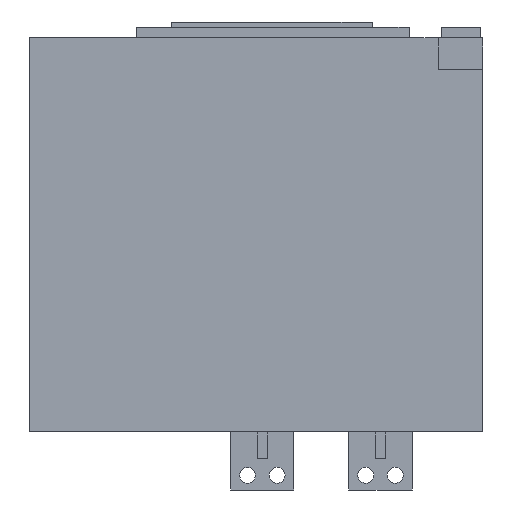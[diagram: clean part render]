
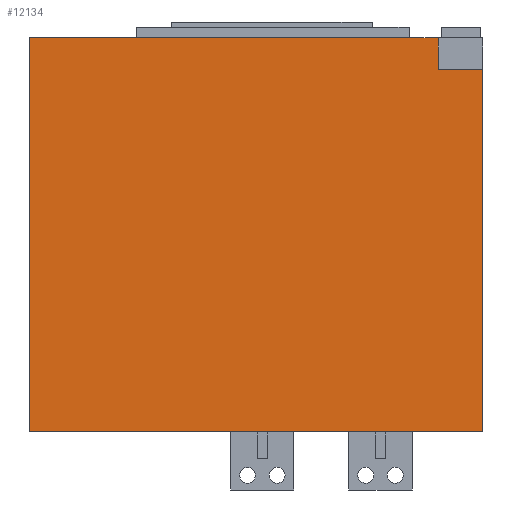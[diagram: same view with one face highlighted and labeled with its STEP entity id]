
A CAD part, left-side view. The second image highlights one B-rep face of the part: STEP entity #12134.
In plain terms, the highlighted planar face has unit normal (-1, 0, 0).
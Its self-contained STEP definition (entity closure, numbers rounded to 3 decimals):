
#792 = LINE ( 'NONE', #20228, #16770 ) ;
#980 = CARTESIAN_POINT ( 'NONE',  ( -167.5, 430., -373.5 ) ) ;
#1134 = VECTOR ( 'NONE', #17916, 1000. ) ;
#1700 = CARTESIAN_POINT ( 'NONE',  ( -167.5, 42.5, -373.5 ) ) ;
#2883 = DIRECTION ( 'NONE',  ( 0., 0., 1. ) ) ;
#3177 = ORIENTED_EDGE ( 'NONE', *, *, #5900, .F. ) ;
#4442 = PLANE ( 'NONE',  #24983 ) ;
#5031 = VERTEX_POINT ( 'NONE', #15456 ) ;
#5123 = CARTESIAN_POINT ( 'NONE',  ( -167.5, 0., -30. ) ) ;
#5683 = VERTEX_POINT ( 'NONE', #25921 ) ;
#5900 = EDGE_CURVE ( 'NONE', #9797, #5031, #22195, .T. ) ;
#6906 = DIRECTION ( 'NONE',  ( 0., 0., 1. ) ) ;
#7909 = DIRECTION ( 'NONE',  ( 0., 0., 1. ) ) ;
#9797 = VERTEX_POINT ( 'NONE', #980 ) ;
#10368 = DIRECTION ( 'NONE',  ( 0., -1., 0. ) ) ;
#10475 = VECTOR ( 'NONE', #2883, 1000. ) ;
#12134 = ADVANCED_FACE ( 'NONE', ( #27631 ), #4442, .T. ) ;
#12419 = CARTESIAN_POINT ( 'NONE',  ( -167.5, 430., -373.5 ) ) ;
#13344 = VECTOR ( 'NONE', #7909, 1000. ) ;
#13699 = ORIENTED_EDGE ( 'NONE', *, *, #35220, .F. ) ;
#14758 = CARTESIAN_POINT ( 'NONE',  ( -167.5, 0., -373.5 ) ) ;
#15115 = CARTESIAN_POINT ( 'NONE',  ( -167.5, 0., -373.5 ) ) ;
#15456 = CARTESIAN_POINT ( 'NONE',  ( -167.5, 430., 0. ) ) ;
#16075 = EDGE_CURVE ( 'NONE', #5683, #36013, #27523, .T. ) ;
#16770 = VECTOR ( 'NONE', #38207, 1000. ) ;
#17765 = DIRECTION ( 'NONE',  ( 0., -1., 0. ) ) ;
#17916 = DIRECTION ( 'NONE',  ( 0., -1., 0. ) ) ;
#18497 = ORIENTED_EDGE ( 'NONE', *, *, #16075, .F. ) ;
#19459 = VERTEX_POINT ( 'NONE', #35840 ) ;
#20228 = CARTESIAN_POINT ( 'NONE',  ( -167.5, 0., 0. ) ) ;
#20502 = VECTOR ( 'NONE', #17765, 1000. ) ;
#21698 = ORIENTED_EDGE ( 'NONE', *, *, #30660, .T. ) ;
#22195 = LINE ( 'NONE', #12419, #37215 ) ;
#23222 = VERTEX_POINT ( 'NONE', #35936 ) ;
#24951 = ORIENTED_EDGE ( 'NONE', *, *, #37649, .T. ) ;
#24983 = AXIS2_PLACEMENT_3D ( 'NONE', #25453, #28469, #10368 ) ;
#25453 = CARTESIAN_POINT ( 'NONE',  ( -167.5, 0., -373.5 ) ) ;
#25921 = CARTESIAN_POINT ( 'NONE',  ( -167.5, 42.5, -30. ) ) ;
#26156 = EDGE_LOOP ( 'NONE', ( #13699, #3177, #24951, #21698, #18497, #33983 ) ) ;
#27523 = LINE ( 'NONE', #35781, #20502 ) ;
#27631 = FACE_OUTER_BOUND ( 'NONE', #26156, .T. ) ;
#28469 = DIRECTION ( 'NONE',  ( -1., 0., 0. ) ) ;
#29407 = LINE ( 'NONE', #1700, #13344 ) ;
#30494 = EDGE_CURVE ( 'NONE', #5683, #23222, #29407, .T. ) ;
#30660 = EDGE_CURVE ( 'NONE', #19459, #36013, #34568, .T. ) ;
#32170 = LINE ( 'NONE', #15115, #1134 ) ;
#33983 = ORIENTED_EDGE ( 'NONE', *, *, #30494, .T. ) ;
#34568 = LINE ( 'NONE', #14758, #10475 ) ;
#35220 = EDGE_CURVE ( 'NONE', #5031, #23222, #792, .T. ) ;
#35781 = CARTESIAN_POINT ( 'NONE',  ( -167.5, 430.001, -30. ) ) ;
#35840 = CARTESIAN_POINT ( 'NONE',  ( -167.5, 0., -373.5 ) ) ;
#35936 = CARTESIAN_POINT ( 'NONE',  ( -167.5, 42.5, 0. ) ) ;
#36013 = VERTEX_POINT ( 'NONE', #5123 ) ;
#37215 = VECTOR ( 'NONE', #6906, 1000. ) ;
#37649 = EDGE_CURVE ( 'NONE', #9797, #19459, #32170, .T. ) ;
#38207 = DIRECTION ( 'NONE',  ( 0., -1., 0. ) ) ;
